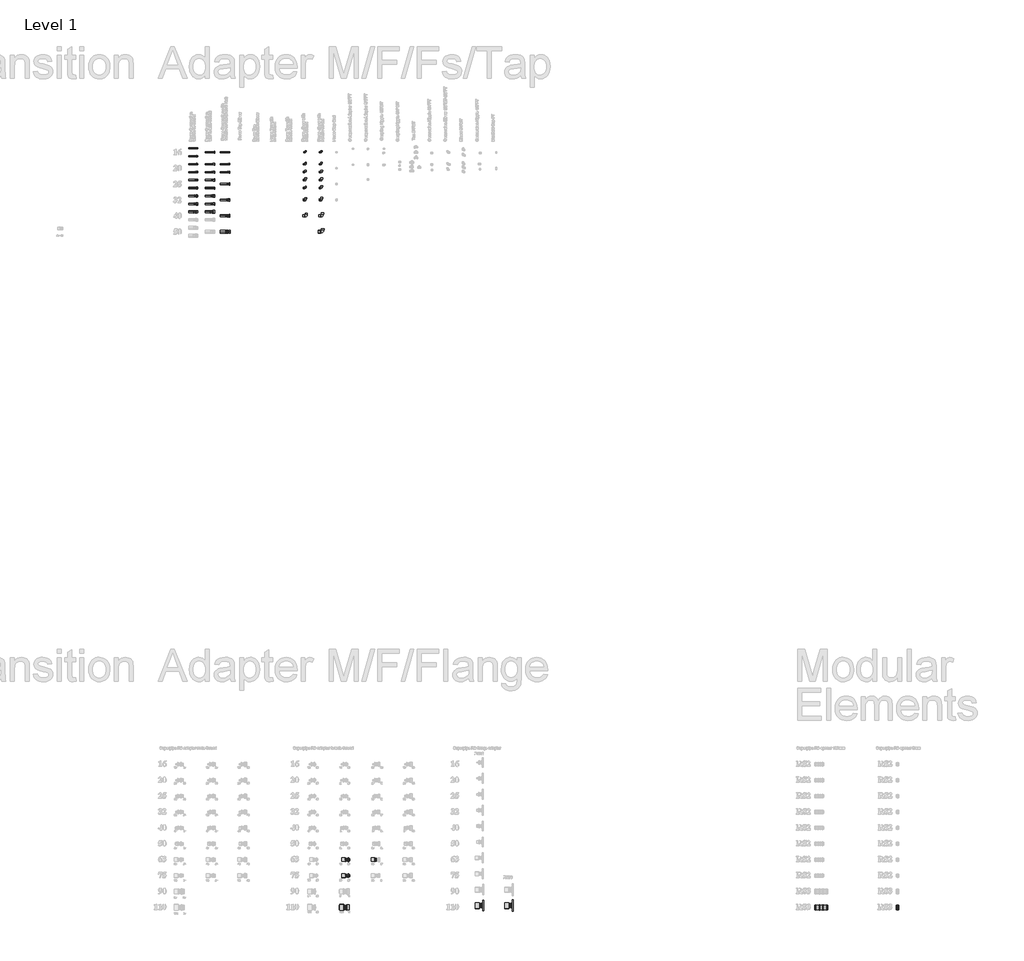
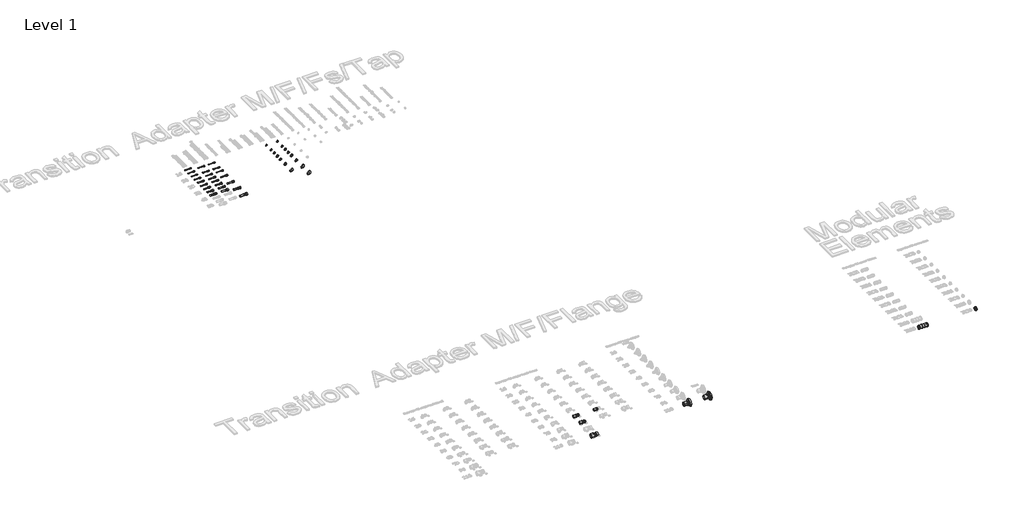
# One storey, part 5 of 57: 52 pipe fittings, 24 pipe segments.
"""IFC4 building model written with IfcOpenShell, lengths in millimetres."""

from ifc_helpers import new_model, si_unit, point, frame, frame_2d, origin, place, context, project, spatial, circle_curve, trimmed, segment, composite_curve, outline, extrude, transform, mapped, element, save
from components import pipe_fitting_3e6d713a, pipe_fitting_80dcb228, pipe_fitting_06f68891, pipe_fitting_153eb18a, pipe_fitting_16d1dc4d, pipe_fitting_d59b398c, pipe_fitting_65f6b2e2, pipe_fitting_98ce794a, pipe_fitting_318aa478, pipe_fitting_791ebc37, pipe_fitting_c7017445, pipe_fitting_6a74affa, pipe_fitting_b4bb1536, pipe_fitting_474bcbb5, pipe_fitting_40a9fcae, pipe_fitting_f31cd02a, pipe_fitting_fcc8820a, pipe_fitting_cb08376b, pipe_fitting_2f187997, pipe_fitting_d1e6d692, pipe_fitting_828af438, pipe_fitting_0338804f, pipe_fitting_b7c00fc1, pipe_fitting_d50d454a, pipe_fitting_430ad02c, pipe_fitting_c0130a99, pipe_fitting_bb159481, pipe_fitting_895879c1, pipe_fitting_925f8ba6, pipe_fitting_e706b996, pipe_fitting_e70ef469, pipe_fitting_1846f7b8, pipe_fitting_2b95b9ba, pipe_fitting_61145630, pipe_fitting_aa30d96a, pipe_fitting_9d20a31b, pipe_fitting_7aab8a70, pipe_fitting_b5cbe250, pipe_fitting_0f7801de, rs_adapter_8da40ca7, rs_adapter_b700a1d7, rs_adapter_1ad0a11d, rs_female_adapter_be3e60a6, rs_female_adapter_dce81887, rs_flange_a0c34e24, rs_flange_74e88712, rs_spacer_c2a2605f, rs_spacer_aa593b7b

model = new_model("IFC4")

# Units and contexts
model_context = context("Model", 3, world=origin())
ifc_project = project(units=[si_unit("LENGTHUNIT", "METRE", prefix="MILLI")], contexts=[model_context])

# Site, building, storey
site = spatial("IfcSite", under=ifc_project)
building = spatial("IfcBuilding", under=site)
storey = spatial("IfcBuildingStorey", under=building, Name="Level 1", Elevation=27.3876384)

# Pipe fittings
placement = place(None, origin())
pipe_fitting_shape = pipe_fitting_3e6d713a(model_context)
element("IfcPipeFitting", 1, ObjectType="SuperPipe_AdapterSN_MAX_G : 16-G1/2\"SN", at=placement, inside=storey, context=model_context, shape_type="MappedRepresentation", body=[
    mapped(pipe_fitting_shape, transform((30103.5742004, 30195.9751784, 27.3876384), x_axis=(1.0, 0.0, 0.0), y_axis=(0.0, 1.0, 0.0), z_axis=(0.0, 0.0, 1.0))),
])
pipe_fitting_2_shape = pipe_fitting_80dcb228(model_context)
element("IfcPipeFitting", 2, ObjectType="SuperPipe_AdapterMT : 16-R1/2\"MT", at=placement, inside=storey, context=model_context, shape_type="MappedRepresentation", body=[
    mapped(pipe_fitting_2_shape, transform((29507.8745881, 30270.9751784, 27.3876384), x_axis=(1.0, 0.0, 0.0), y_axis=(0.0, 1.0, 0.0), z_axis=(0.0, 0.0, 1.0))),
])
pipe_fitting_3_shape = pipe_fitting_06f68891(model_context)
element("IfcPipeFitting", 3, ObjectType="SuperPipe_ElbowAdapterMT_MAX_R : 16-R1/2\"MT", at=placement, inside=storey, context=model_context, shape_type="MappedRepresentation", body=[
    mapped(pipe_fitting_3_shape, transform((31558.8746831, 30195.708829, 27.3876384), x_axis=(1.0, 0.0, 0.0), y_axis=(0.0, 1.0, 0.0), z_axis=(0.0, 0.0, 1.0))),
])
pipe_fitting_4_shape = pipe_fitting_153eb18a(model_context)
element("IfcPipeFitting", 4, ObjectType="SuperPipe_AdapterMT : 16-R3/4\"MT", at=placement, inside=storey, context=model_context, shape_type="MappedRepresentation", body=[
    mapped(pipe_fitting_4_shape, transform((29506.8745881, 30120.9751784, 27.3876384), x_axis=(1.0, 0.0, 0.0), y_axis=(0.0, 1.0, 0.0), z_axis=(0.0, 0.0, 1.0))),
])
pipe_fitting_5_shape = pipe_fitting_16d1dc4d(model_context)
element("IfcPipeFitting", 5, ObjectType="SuperPipe_AdapterFT_MAX_RP : 16-RP1/2\"FT", at=placement, inside=storey, context=model_context, shape_type="MappedRepresentation", body=[
    mapped(pipe_fitting_5_shape, transform((29819.8746831, 30195.9751784, 27.3876384), x_axis=(1.0, 0.0, 0.0), y_axis=(0.0, 1.0, 0.0), z_axis=(0.0, 0.0, 1.0))),
])
pipe_fitting_6_shape = pipe_fitting_d59b398c(model_context)
element("IfcPipeFitting", 6, ObjectType="SuperPipe_ElbowAdapterFT_MAX_RP : 16-RP1/2\"FT", at=placement, inside=storey, context=model_context, shape_type="MappedRepresentation", body=[
    mapped(pipe_fitting_6_shape, transform((31859.8746831, 30195.708829, 27.3876384), x_axis=(1.0, 0.0, 0.0), y_axis=(0.0, 1.0, 0.0), z_axis=(0.0, 0.0, 1.0))),
])
pipe_fitting_7_shape = pipe_fitting_65f6b2e2(model_context)
element("IfcPipeFitting", 7, ObjectType="SuperPipe_AdapterSN_MAX_G : 20-G1/2\"SN", at=placement, inside=storey, context=model_context, shape_type="MappedRepresentation", body=[
    mapped(pipe_fitting_7_shape, transform((30107.5728103, 29970.9751784, 27.3876384), x_axis=(1.0, 0.0, 0.0), y_axis=(0.0, 1.0, 0.0), z_axis=(0.0, 0.0, 1.0))),
])
pipe_fitting_8_shape = pipe_fitting_98ce794a(model_context)
element("IfcPipeFitting", 8, ObjectType="SuperPipe_AdapterSN_MAX_G : 20-G3/4\"SN", at=placement, inside=storey, context=model_context, shape_type="MappedRepresentation", body=[
    mapped(pipe_fitting_8_shape, transform((30111.5727093, 29820.9751784, 27.3876384), x_axis=(1.0, 0.0, 0.0), y_axis=(0.0, 1.0, 0.0), z_axis=(0.0, 0.0, 1.0))),
])
pipe_fitting_9_shape = pipe_fitting_318aa478(model_context)
element("IfcPipeFitting", 9, ObjectType="SuperPipe_AdapterMT : 20-R1/2\"MT", at=placement, inside=storey, context=model_context, shape_type="MappedRepresentation", body=[
    mapped(pipe_fitting_9_shape, transform((29507.8751, 29970.9751784, 27.3876384), x_axis=(1.0, 0.0, 0.0), y_axis=(0.0, 1.0, 0.0), z_axis=(0.0, 0.0, 1.0))),
])
pipe_fitting_10_shape = pipe_fitting_791ebc37(model_context)
element("IfcPipeFitting", 10, ObjectType="SuperPipe_ElbowAdapterMT_MAX_R : 20-R1/2\"MT", at=placement, inside=storey, context=model_context, shape_type="MappedRepresentation", body=[
    mapped(pipe_fitting_10_shape, transform((31560.8746831, 29970.9751784, 27.3876384), x_axis=(1.0, 0.0, 0.0), y_axis=(0.0, 1.0, 0.0), z_axis=(0.0, 0.0, 1.0))),
])
pipe_fitting_11_shape = pipe_fitting_c7017445(model_context)
element("IfcPipeFitting", 11, ObjectType="SuperPipe_AdapterMT : 20-R3/4\"MT", at=placement, inside=storey, context=model_context, shape_type="MappedRepresentation", body=[
    mapped(pipe_fitting_11_shape, transform((29506.8751411, 29820.9751784, 27.3876384), x_axis=(1.0, 0.0, 0.0), y_axis=(0.0, 1.0, 0.0), z_axis=(0.0, 0.0, 1.0))),
])
pipe_fitting_12_shape = pipe_fitting_6a74affa(model_context)
element("IfcPipeFitting", 12, ObjectType="SuperPipe_ElbowAdapterMT_MAX_R : 20-R3/4\"MT", at=placement, inside=storey, context=model_context, shape_type="MappedRepresentation", body=[
    mapped(pipe_fitting_12_shape, transform((31560.8746831, 29820.9751784, 27.3876384), x_axis=(1.0, 0.0, 0.0), y_axis=(0.0, 1.0, 0.0), z_axis=(0.0, 0.0, 1.0))),
])
pipe_fitting_13_shape = pipe_fitting_b4bb1536(model_context)
element("IfcPipeFitting", 13, ObjectType="SuperPipe_AdapterFT_MAX_RP : 20-RP1/2\"FT", at=placement, inside=storey, context=model_context, shape_type="MappedRepresentation", body=[
    mapped(pipe_fitting_13_shape, transform((29819.8746831, 29970.9751784, 27.3876384), x_axis=(1.0, 0.0, 0.0), y_axis=(0.0, 1.0, 0.0), z_axis=(0.0, 0.0, 1.0))),
])
pipe_fitting_14_shape = pipe_fitting_474bcbb5(model_context)
element("IfcPipeFitting", 14, ObjectType="SuperPipe_ElbowAdapterFT_MAX_RP : 20-RP1/2\"FT", at=placement, inside=storey, context=model_context, shape_type="MappedRepresentation", body=[
    mapped(pipe_fitting_14_shape, transform((31860.8746831, 29970.9751784, 27.3876384), x_axis=(1.0, 0.0, 0.0), y_axis=(0.0, 1.0, 0.0), z_axis=(0.0, 0.0, 1.0))),
])
pipe_fitting_15_shape = pipe_fitting_40a9fcae(model_context)
element("IfcPipeFitting", 15, ObjectType="SuperPipe_AdapterFT_MAX_RP : 20-RP3/4\"FT", at=placement, inside=storey, context=model_context, shape_type="MappedRepresentation", body=[
    mapped(pipe_fitting_15_shape, transform((29816.8746831, 29820.9751784, 27.3876384), x_axis=(1.0, 0.0, 0.0), y_axis=(0.0, 1.0, 0.0), z_axis=(0.0, 0.0, 1.0))),
])
pipe_fitting_16_shape = pipe_fitting_f31cd02a(model_context)
element("IfcPipeFitting", 16, ObjectType="SuperPipe_ElbowAdapterFT_MAX_RP : 20-RP3/4\"FT", at=placement, inside=storey, context=model_context, shape_type="MappedRepresentation", body=[
    mapped(pipe_fitting_16_shape, transform((31862.8746831, 29820.9751784, 27.3876384), x_axis=(1.0, 0.0, 0.0), y_axis=(0.0, 1.0, 0.0), z_axis=(0.0, 0.0, 1.0))),
])
pipe_fitting_17_shape = pipe_fitting_fcc8820a(model_context)
element("IfcPipeFitting", 17, ObjectType="SuperPipe_AdapterSN_MAX_G : 25-G1\"SN", at=placement, inside=storey, context=model_context, shape_type="MappedRepresentation", body=[
    mapped(pipe_fitting_17_shape, transform((30106.5742004, 29595.9751784, 27.3876384), x_axis=(1.0, 0.0, 0.0), y_axis=(0.0, 1.0, 0.0), z_axis=(0.0, 0.0, 1.0))),
])
pipe_fitting_18_shape = pipe_fitting_cb08376b(model_context)
element("IfcPipeFitting", 18, ObjectType="SuperPipe_AdapterMT : 25-R1\"MT", at=placement, inside=storey, context=model_context, shape_type="MappedRepresentation", body=[
    mapped(pipe_fitting_18_shape, transform((29506.875132, 29520.9751784, 27.3876384), x_axis=(1.0, 0.0, 0.0), y_axis=(0.0, 1.0, 0.0), z_axis=(0.0, 0.0, 1.0))),
])
pipe_fitting_19_shape = pipe_fitting_2f187997(model_context)
element("IfcPipeFitting", 19, ObjectType="SuperPipe_ElbowAdapterMT_MAX_R : 25-R1\"MT", at=placement, inside=storey, context=model_context, shape_type="MappedRepresentation", body=[
    mapped(pipe_fitting_19_shape, transform((31563.8746831, 29670.9751784, 27.3876384), x_axis=(1.0, 0.0, 0.0), y_axis=(0.0, 1.0, 0.0), z_axis=(0.0, 0.0, 1.0))),
])
pipe_fitting_20_shape = pipe_fitting_d1e6d692(model_context)
element("IfcPipeFitting", 20, ObjectType="SuperPipe_AdapterMT : 25-R3/4\"MT", at=placement, inside=storey, context=model_context, shape_type="MappedRepresentation", body=[
    mapped(pipe_fitting_20_shape, transform((29506.8751516, 29670.9751784, 27.3876384), x_axis=(1.0, 0.0, 0.0), y_axis=(0.0, 1.0, 0.0), z_axis=(0.0, 0.0, 1.0))),
])
pipe_fitting_21_shape = pipe_fitting_828af438(model_context)
element("IfcPipeFitting", 21, ObjectType="SuperPipe_ElbowAdapterMT_MAX_R : 25-R3/4\"MT", at=placement, inside=storey, context=model_context, shape_type="MappedRepresentation", body=[
    mapped(pipe_fitting_21_shape, transform((31561.8746831, 29520.9751784, 27.3876384), x_axis=(1.0, 0.0, 0.0), y_axis=(0.0, 1.0, 0.0), z_axis=(0.0, 0.0, 1.0))),
])
pipe_fitting_22_shape = pipe_fitting_0338804f(model_context)
element("IfcPipeFitting", 22, ObjectType="SuperPipe_AdapterFT_MAX_RP : 25-RP1\"FT", at=placement, inside=storey, context=model_context, shape_type="MappedRepresentation", body=[
    mapped(pipe_fitting_22_shape, transform((29816.8746831, 29670.9751784, 27.3876384), x_axis=(1.0, 0.0, 0.0), y_axis=(0.0, 1.0, 0.0), z_axis=(0.0, 0.0, 1.0))),
])
pipe_fitting_23_shape = pipe_fitting_b7c00fc1(model_context)
element("IfcPipeFitting", 23, ObjectType="SuperPipe_ElbowAdapterFT_MAX_RP : 25-RP1\"FT", at=placement, inside=storey, context=model_context, shape_type="MappedRepresentation", body=[
    mapped(pipe_fitting_23_shape, transform((31866.8746831, 29520.9751784, 27.3876384), x_axis=(1.0, 0.0, 0.0), y_axis=(0.0, 1.0, 0.0), z_axis=(0.0, 0.0, 1.0))),
])
pipe_fitting_24_shape = pipe_fitting_d50d454a(model_context)
element("IfcPipeFitting", 24, ObjectType="SuperPipe_AdapterFT_MAX_RP : 25-RP3/4\"FT", at=placement, inside=storey, context=model_context, shape_type="MappedRepresentation", body=[
    mapped(pipe_fitting_24_shape, transform((29817.8746831, 29520.9751784, 27.3876384), x_axis=(1.0, 0.0, 0.0), y_axis=(0.0, 1.0, 0.0), z_axis=(0.0, 0.0, 1.0))),
])
pipe_fitting_25_shape = pipe_fitting_430ad02c(model_context)
element("IfcPipeFitting", 25, ObjectType="SuperPipe_ElbowAdapterFT_MAX_RP : 25-RP3/4\"FT", at=placement, inside=storey, context=model_context, shape_type="MappedRepresentation", body=[
    mapped(pipe_fitting_25_shape, transform((31862.8746831, 29670.9751784, 27.3876384), x_axis=(1.0, 0.0, 0.0), y_axis=(0.0, 1.0, 0.0), z_axis=(0.0, 0.0, 1.0))),
])
pipe_fitting_26_shape = pipe_fitting_c0130a99(model_context)
element("IfcPipeFitting", 26, ObjectType="SuperPipe_AdapterSN_MAX_G : 32-G1 1/4\"SN", at=placement, inside=storey, context=model_context, shape_type="MappedRepresentation", body=[
    mapped(pipe_fitting_26_shape, transform((30104.5742004, 29295.9751784, 27.3876384), x_axis=(1.0, 0.0, 0.0), y_axis=(0.0, 1.0, 0.0), z_axis=(0.0, 0.0, 1.0))),
])
pipe_fitting_27_shape = pipe_fitting_bb159481(model_context)
element("IfcPipeFitting", 27, ObjectType="SuperPipe_AdapterMT : 32-R1 1/4\"MT", at=placement, inside=storey, context=model_context, shape_type="MappedRepresentation", body=[
    mapped(pipe_fitting_27_shape, transform((29496.8751903, 29220.9751784, 27.3876384), x_axis=(1.0, 0.0, 0.0), y_axis=(0.0, 1.0, 0.0), z_axis=(0.0, 0.0, 1.0))),
])
pipe_fitting_28_shape = pipe_fitting_895879c1(model_context)
element("IfcPipeFitting", 28, ObjectType="SuperPipe_AdapterMT : 32-R1\"MT", at=placement, inside=storey, context=model_context, shape_type="MappedRepresentation", body=[
    mapped(pipe_fitting_28_shape, transform((29506.8751818, 29370.9751784, 27.3876384), x_axis=(1.0, 0.0, 0.0), y_axis=(0.0, 1.0, 0.0), z_axis=(0.0, 0.0, 1.0))),
])
pipe_fitting_29_shape = pipe_fitting_925f8ba6(model_context)
element("IfcPipeFitting", 29, ObjectType="SuperPipe_ElbowAdapterMT_MAX_R : 32-R1\"MT", at=placement, inside=storey, context=model_context, shape_type="MappedRepresentation", body=[
    mapped(pipe_fitting_29_shape, transform((31563.8746831, 29295.9751784, 27.3876384), x_axis=(1.0, 0.0, 0.0), y_axis=(0.0, 1.0, 0.0), z_axis=(0.0, 0.0, 1.0))),
])
pipe_fitting_30_shape = pipe_fitting_e706b996(model_context)
element("IfcPipeFitting", 30, ObjectType="SuperPipe_AdapterFT_MAX_RP : 32-RP1 1/4\"FT", at=placement, inside=storey, context=model_context, shape_type="MappedRepresentation", body=[
    mapped(pipe_fitting_30_shape, transform((29813.8746831, 29370.9751784, 27.3876384), x_axis=(1.0, 0.0, 0.0), y_axis=(0.0, 1.0, 0.0), z_axis=(0.0, 0.0, 1.0))),
])
pipe_fitting_31_shape = pipe_fitting_e70ef469(model_context)
element("IfcPipeFitting", 31, ObjectType="SuperPipe_AdapterFT_MAX_RP : 32-RP1\"FT", at=placement, inside=storey, context=model_context, shape_type="MappedRepresentation", body=[
    mapped(pipe_fitting_31_shape, transform((29817.8746831, 29220.9751784, 27.3876384), x_axis=(1.0, 0.0, 0.0), y_axis=(0.0, 1.0, 0.0), z_axis=(0.0, 0.0, 1.0))),
])
pipe_fitting_32_shape = pipe_fitting_1846f7b8(model_context)
element("IfcPipeFitting", 32, ObjectType="SuperPipe_ElbowAdapterFT_MAX_RP : 32-RP1\"FT", at=placement, inside=storey, context=model_context, shape_type="MappedRepresentation", body=[
    mapped(pipe_fitting_32_shape, transform((31866.8746831, 29295.9751784, 27.3876384), x_axis=(1.0, 0.0, 0.0), y_axis=(0.0, 1.0, 0.0), z_axis=(0.0, 0.0, 1.0))),
])
pipe_fitting_33_shape = pipe_fitting_2b95b9ba(model_context)
element("IfcPipeFitting", 33, ObjectType="SuperPipe_AdapterSN_MAX_G : 40-G1 1/2\"SN", at=placement, inside=storey, context=model_context, shape_type="MappedRepresentation", body=[
    mapped(pipe_fitting_33_shape, transform((30098.5742004, 28996.2415278, 27.3876384), x_axis=(1.0, 0.0, 0.0), y_axis=(0.0, 1.0, 0.0), z_axis=(0.0, 0.0, 1.0))),
])
pipe_fitting_34_shape = pipe_fitting_61145630(model_context)
element("IfcPipeFitting", 34, ObjectType="SuperPipe_AdapterMT : 40-R1 1/4\"MT", at=placement, inside=storey, context=model_context, shape_type="MappedRepresentation", body=[
    mapped(pipe_fitting_34_shape, transform((29495.8745881, 29070.9751784, 27.3876384), x_axis=(1.0, 0.0, 0.0), y_axis=(0.0, 1.0, 0.0), z_axis=(0.0, 0.0, 1.0))),
])
pipe_fitting_35_shape = pipe_fitting_aa30d96a(model_context)
element("IfcPipeFitting", 35, ObjectType="SuperPipe_ElbowAdapterMT_MAX_R : 40-R1 1/4\"MT", at=placement, inside=storey, context=model_context, shape_type="MappedRepresentation", body=[
    mapped(pipe_fitting_35_shape, transform((31573.8746831, 28996.2415278, 27.3876384), x_axis=(1.0, 0.0, 0.0), y_axis=(0.0, 1.0, 0.0), z_axis=(0.0, 0.0, 1.0))),
])
pipe_fitting_36_shape = pipe_fitting_9d20a31b(model_context)
element("IfcPipeFitting", 36, ObjectType="SuperPipe_AdapterFT_SPress_RP : 40-RP1 1/2\"FT", at=placement, inside=storey, context=model_context, shape_type="MappedRepresentation", body=[
    mapped(pipe_fitting_36_shape, transform((29811.8746831, 29070.9751784, 27.3876384), x_axis=(1.0, 0.0, 0.0), y_axis=(0.0, 1.0, 0.0), z_axis=(0.0, 0.0, 1.0))),
])
pipe_fitting_37_shape = pipe_fitting_7aab8a70(model_context)
element("IfcPipeFitting", 37, ObjectType="SuperPipe_ElbowAdapterFT_MAX_RP : 40-RP1 1/2\"FT", at=placement, inside=storey, context=model_context, shape_type="MappedRepresentation", body=[
    mapped(pipe_fitting_37_shape, transform((31878.8746831, 28996.2415278, 27.3876384), x_axis=(1.0, 0.0, 0.0), y_axis=(0.0, 1.0, 0.0), z_axis=(0.0, 0.0, 1.0))),
])
pipe_fitting_38_shape = pipe_fitting_b5cbe250(model_context)
element("IfcPipeFitting", 38, ObjectType="SuperPipe_AdapterSN_MAX_G : 50-G2\"SN", at=placement, inside=storey, context=model_context, shape_type="MappedRepresentation", body=[
    mapped(pipe_fitting_38_shape, transform((30098.5742004, 28695.9751784, 27.3876384), x_axis=(1.0, 0.0, 0.0), y_axis=(0.0, 1.0, 0.0), z_axis=(0.0, 0.0, 1.0))),
])
pipe_fitting_39_shape = pipe_fitting_0f7801de(model_context)
element("IfcPipeFitting", 39, ObjectType="SuperPipe_ElbowAdapterFT_MAX_RP : 50-RP1 1/2\"FT", at=placement, inside=storey, context=model_context, shape_type="MappedRepresentation", body=[
    mapped(pipe_fitting_39_shape, transform((31880.8746831, 28695.9751784, 27.3876384), x_axis=(1.0, 0.0, 0.0), y_axis=(0.0, 1.0, 0.0), z_axis=(0.0, 0.0, 1.0))),
])
rs_adapter_shape = rs_adapter_8da40ca7(model_context)
element("IfcPipeFitting", 40, ObjectType="RS Adapter : Superpipe RS Press Adapter", at=placement, inside=storey, context=model_context, shape_type="MappedRepresentation", body=[
    mapped(rs_adapter_shape, transform((32296.6568613, 15946.8081159, 27.3876384), x_axis=(-1.0000000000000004, 0.0, 0.0), y_axis=(0.0, 1.0000000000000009, 0.0), z_axis=(0.0, 0.0, -1.0000000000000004))),
])
element("IfcPipeFitting", 41, ObjectType="RS Adapter : Superpipe RS Press Adapter", at=placement, inside=storey, context=model_context, shape_type="MappedRepresentation", body=[
    mapped(rs_adapter_shape, transform((34858.1649783, 15981.0652943, 27.3876384), x_axis=(-1.0000000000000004, 0.0, 0.0), y_axis=(0.0, 1.0000000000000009, 0.0), z_axis=(0.0, 0.0, -1.0000000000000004))),
])
element("IfcPipeFitting", 42, ObjectType="RS Adapter : Superpipe RS Press Adapter", at=placement, inside=storey, context=model_context, shape_type="MappedRepresentation", body=[
    mapped(rs_adapter_shape, transform((35414.1300252, 15981.0652943, 27.3876384), x_axis=(-1.0000000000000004, 0.0, 0.0), y_axis=(0.0, 1.0000000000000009, 0.0), z_axis=(0.0, 0.0, -1.0000000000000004))),
])
rs_adapter_2_shape = rs_adapter_b700a1d7(model_context)
element("IfcPipeFitting", 43, ObjectType="RS Adapter : Superpipe RS Press Adapter", at=placement, inside=storey, context=model_context, shape_type="MappedRepresentation", body=[
    mapped(rs_adapter_2_shape, transform((32328.6568613, 16546.8081159, 27.3876384), x_axis=(-1.0000000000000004, 0.0, 0.0), y_axis=(0.0, 1.0000000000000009, 0.0), z_axis=(0.0, 0.0, -1.0000000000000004))),
])
rs_adapter_3_shape = rs_adapter_1ad0a11d(model_context)
element("IfcPipeFitting", 44, ObjectType="RS Adapter : Superpipe RS Press Adapter", at=placement, inside=storey, context=model_context, shape_type="MappedRepresentation", body=[
    mapped(rs_adapter_3_shape, transform((32328.6568613, 16846.8081159, 27.3876384), x_axis=(-1.0000000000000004, 0.0, 0.0), y_axis=(0.0, 1.0000000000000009, 0.0), z_axis=(0.0, 0.0, -1.0000000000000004))),
])
element("IfcPipeFitting", 45, ObjectType="RS Adapter : Superpipe RS Press Adapter", at=placement, inside=storey, context=model_context, shape_type="MappedRepresentation", body=[
    mapped(rs_adapter_3_shape, transform((32888.6568613, 16846.8081159, 27.3876384), x_axis=(-1.0000000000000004, 0.0, 0.0), y_axis=(0.0, 1.0000000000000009, 0.0), z_axis=(0.0, 0.0, -1.0000000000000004))),
])
rs_female_adapter_shape = rs_female_adapter_be3e60a6(model_context)
element("IfcPipeFitting", 46, ObjectType="RS Female Adapter : Superpipe RS2 FT Adapter 1”", at=placement, inside=storey, context=model_context, shape_type="MappedRepresentation", body=[
    mapped(rs_female_adapter_shape, transform((32346.6568613, 16846.8081159, 27.3876384), x_axis=(1.0, 0.0, 0.0), y_axis=(0.0, -1.0, 0.0), z_axis=(0.0, 0.0, -1.0))),
])
element("IfcPipeFitting", 47, ObjectType="RS Female Adapter : Superpipe RS2 FT Adapter 1”", at=placement, inside=storey, context=model_context, shape_type="MappedRepresentation", body=[
    mapped(rs_female_adapter_shape, transform((32346.6568613, 16546.8081159, 27.3876384), x_axis=(1.0, 0.0, 0.0), y_axis=(0.0, -1.0, 0.0), z_axis=(0.0, 0.0, -1.0))),
])
rs_female_adapter_2_shape = rs_female_adapter_dce81887(model_context)
element("IfcPipeFitting", 48, ObjectType="RS Female Adapter : Superpipe RS3 FT Adapter 3”", at=placement, inside=storey, context=model_context, shape_type="MappedRepresentation", body=[
    mapped(rs_female_adapter_2_shape, transform((32314.6568613, 15946.8081159, 27.3876384), x_axis=(1.0, 0.0, 0.0), y_axis=(0.0, -1.0, 0.0), z_axis=(0.0, 0.0, -1.0))),
])
rs_flange_shape = rs_flange_a0c34e24(model_context)
element("IfcPipeFitting", 49, ObjectType="RS Flange : Superpipe Flange Adapter - RS3 DN80 (PN16)", at=placement, inside=storey, context=model_context, shape_type="MappedRepresentation", body=[
    mapped(rs_flange_shape, transform((34875.1649783, 15981.0652943, 27.3876384), x_axis=(1.0, 0.0, 0.0), y_axis=(0.0, -1.0, 0.0), z_axis=(0.0, 0.0, -1.0))),
])
rs_flange_2_shape = rs_flange_74e88712(model_context)
element("IfcPipeFitting", 50, ObjectType="RS Flange : Superpipe Flange Adapter - RS3 DN100 (PN16)", at=placement, inside=storey, context=model_context, shape_type="MappedRepresentation", body=[
    mapped(rs_flange_2_shape, transform((35431.1300252, 15981.0652943, 27.3876384), x_axis=(1.0, 0.0, 0.0), y_axis=(0.0, -1.0, 0.0), z_axis=(0.0, 0.0, -1.0))),
])
rs_spacer_shape = rs_spacer_c2a2605f(model_context)
element("IfcPipeFitting", 51, ObjectType="RS Spacer : Superpipe RS Spacer - RS3 210mm", at=placement, inside=storey, context=model_context, shape_type="MappedRepresentation", body=[
    mapped(rs_spacer_shape, transform((41164.4874053, 15946.8081159, 27.3876384), x_axis=(1.0, 0.0, 0.0), y_axis=(0.0, 1.0, 0.0), z_axis=(0.0, 0.0, 1.0))),
])
rs_spacer_2_shape = rs_spacer_aa593b7b(model_context)
element("IfcPipeFitting", 52, ObjectType="RS Spacer : Superpipe RS Spacer - RS3 5mm", at=placement, inside=storey, context=model_context, shape_type="MappedRepresentation", body=[
    mapped(rs_spacer_2_shape, transform((42708.7936784, 15946.8081159, 27.3876384), x_axis=(1.0, 0.0, 0.0), y_axis=(0.0, -1.0, 0.0), z_axis=(0.0, 0.0, -1.0))),
])

# Pipe segments
element("IfcPipeSegment", 53, ObjectType="Superpipe 2+ coil", at=placement, inside=storey, context=model_context, shape_type="SweptSolid", body=[
    extrude(outline(composite_curve([segment(trimmed(circle_curve(frame_2d((30270.9751784, 27.3876384)), 8.0), [point((30278.9751784, 27.3876384))], [point((30270.9751784, 19.3876384))], False, "CARTESIAN"), True, "CONTINUOUS"), segment(trimmed(circle_curve(frame_2d((30270.9751784, 27.3876384)), 8.0), [point((30270.9751784, 19.3876384))], [point((30262.9751784, 27.3876384))], False, "CARTESIAN"), True, "CONTINUOUS"), segment(trimmed(circle_curve(frame_2d((30270.9751784, 27.3876384)), 8.0), [point((30262.9751784, 27.3876384))], [point((30270.9751784, 35.3876384))], False, "CARTESIAN"), True, "CONTINUOUS"), segment(trimmed(circle_curve(frame_2d((30270.9751784, 27.3876384)), 8.0), [point((30270.9751784, 35.3876384))], [point((30278.9751784, 27.3876384))], False, "CARTESIAN"), True, "CONTINUOUS")], self_intersect=False)), frame((29351.8751, 0.0, 0.0), z_axis=(1.0, 0.0, 0.0), x_axis=(0.0, 1.0, 0.0)), (0.0, 0.0, 1.0), 149.9994882),
])
element("IfcPipeSegment", 54, ObjectType="Superpipe 2+ coil", at=placement, inside=storey, context=model_context, shape_type="SweptSolid", body=[
    extrude(outline(composite_curve([segment(trimmed(circle_curve(frame_2d((30120.9751784, 27.3876384)), 8.0), [point((30128.9751784, 27.3876384))], [point((30120.9751784, 19.3876384))], False, "CARTESIAN"), True, "CONTINUOUS"), segment(trimmed(circle_curve(frame_2d((30120.9751784, 27.3876384)), 8.0), [point((30120.9751784, 19.3876384))], [point((30112.9751784, 27.3876384))], False, "CARTESIAN"), True, "CONTINUOUS"), segment(trimmed(circle_curve(frame_2d((30120.9751784, 27.3876384)), 8.0), [point((30112.9751784, 27.3876384))], [point((30120.9751784, 35.3876384))], False, "CARTESIAN"), True, "CONTINUOUS"), segment(trimmed(circle_curve(frame_2d((30120.9751784, 27.3876384)), 8.0), [point((30120.9751784, 35.3876384))], [point((30128.9751784, 27.3876384))], False, "CARTESIAN"), True, "CONTINUOUS")], self_intersect=False)), frame((29351.8751, 0.0, 0.0), z_axis=(1.0, 0.0, 0.0), x_axis=(0.0, 1.0, 0.0)), (0.0, 0.0, 1.0), 147.9994882),
])
element("IfcPipeSegment", 55, ObjectType="Superpipe 2+ coil", at=placement, inside=storey, context=model_context, shape_type="SweptSolid", body=[
    extrude(outline(composite_curve([segment(trimmed(circle_curve(frame_2d((29970.9751784, 27.3876384)), 10.0), [point((29980.9751784, 27.3876384))], [point((29970.9751784, 17.3876384))], False, "CARTESIAN"), True, "CONTINUOUS"), segment(trimmed(circle_curve(frame_2d((29970.9751784, 27.3876384)), 10.0), [point((29970.9751784, 17.3876384))], [point((29960.9751784, 27.3876384))], False, "CARTESIAN"), True, "CONTINUOUS"), segment(trimmed(circle_curve(frame_2d((29970.9751784, 27.3876384)), 10.0), [point((29960.9751784, 27.3876384))], [point((29970.9751784, 37.3876384))], False, "CARTESIAN"), True, "CONTINUOUS"), segment(trimmed(circle_curve(frame_2d((29970.9751784, 27.3876384)), 10.0), [point((29970.9751784, 37.3876384))], [point((29980.9751784, 27.3876384))], False, "CARTESIAN"), True, "CONTINUOUS")], self_intersect=False)), frame((29351.8751, 0.0, 0.0), z_axis=(1.0, 0.0, 0.0), x_axis=(0.0, 1.0, 0.0)), (0.0, 0.0, 1.0), 151.0),
])
element("IfcPipeSegment", 56, ObjectType="Superpipe 2+ coil", at=placement, inside=storey, context=model_context, shape_type="SweptSolid", body=[
    extrude(outline(composite_curve([segment(trimmed(circle_curve(frame_2d((29820.9751784, 27.3876384)), 10.0), [point((29830.9751784, 27.3876384))], [point((29820.9751784, 17.3876384))], False, "CARTESIAN"), True, "CONTINUOUS"), segment(trimmed(circle_curve(frame_2d((29820.9751784, 27.3876384)), 10.0), [point((29820.9751784, 17.3876384))], [point((29810.9751784, 27.3876384))], False, "CARTESIAN"), True, "CONTINUOUS"), segment(trimmed(circle_curve(frame_2d((29820.9751784, 27.3876384)), 10.0), [point((29810.9751784, 27.3876384))], [point((29820.9751784, 37.3876384))], False, "CARTESIAN"), True, "CONTINUOUS"), segment(trimmed(circle_curve(frame_2d((29820.9751784, 27.3876384)), 10.0), [point((29820.9751784, 37.3876384))], [point((29830.9751784, 27.3876384))], False, "CARTESIAN"), True, "CONTINUOUS")], self_intersect=False)), frame((29351.8751, 0.0, 0.0), z_axis=(1.0, 0.0, 0.0), x_axis=(0.0, 1.0, 0.0)), (0.0, 0.0, 1.0), 148.0000411),
])
element("IfcPipeSegment", 57, ObjectType="Superpipe 2+ coil", at=placement, inside=storey, context=model_context, shape_type="SweptSolid", body=[
    extrude(outline(composite_curve([segment(trimmed(circle_curve(frame_2d((29520.9751784, 27.3876384)), 12.5), [point((29533.4751784, 27.3876384))], [point((29520.9751784, 14.8876384))], False, "CARTESIAN"), True, "CONTINUOUS"), segment(trimmed(circle_curve(frame_2d((29520.9751784, 27.3876384)), 12.5), [point((29520.9751784, 14.8876384))], [point((29508.4751784, 27.3876384))], False, "CARTESIAN"), True, "CONTINUOUS"), segment(trimmed(circle_curve(frame_2d((29520.9751784, 27.3876384)), 12.5), [point((29508.4751784, 27.3876384))], [point((29520.9751784, 39.8876384))], False, "CARTESIAN"), True, "CONTINUOUS"), segment(trimmed(circle_curve(frame_2d((29520.9751784, 27.3876384)), 12.5), [point((29520.9751784, 39.8876384))], [point((29533.4751784, 27.3876384))], False, "CARTESIAN"), True, "CONTINUOUS")], self_intersect=False)), frame((29351.8751, 0.0, 0.0), z_axis=(1.0, 0.0, 0.0), x_axis=(0.0, 1.0, 0.0)), (0.0, 0.0, 1.0), 148.000032),
])
element("IfcPipeSegment", 58, ObjectType="Superpipe 2+ coil", at=placement, inside=storey, context=model_context, shape_type="SweptSolid", body=[
    extrude(outline(composite_curve([segment(trimmed(circle_curve(frame_2d((29670.9751784, 27.3876384)), 12.5), [point((29683.4751784, 27.3876384))], [point((29670.9751784, 14.8876384))], False, "CARTESIAN"), True, "CONTINUOUS"), segment(trimmed(circle_curve(frame_2d((29670.9751784, 27.3876384)), 12.5), [point((29670.9751784, 14.8876384))], [point((29658.4751784, 27.3876384))], False, "CARTESIAN"), True, "CONTINUOUS"), segment(trimmed(circle_curve(frame_2d((29670.9751784, 27.3876384)), 12.5), [point((29658.4751784, 27.3876384))], [point((29670.9751784, 39.8876384))], False, "CARTESIAN"), True, "CONTINUOUS"), segment(trimmed(circle_curve(frame_2d((29670.9751784, 27.3876384)), 12.5), [point((29670.9751784, 39.8876384))], [point((29683.4751784, 27.3876384))], False, "CARTESIAN"), True, "CONTINUOUS")], self_intersect=False)), frame((29351.8751, 0.0, 0.0), z_axis=(1.0, 0.0, 0.0), x_axis=(0.0, 1.0, 0.0)), (0.0, 0.0, 1.0), 148.0000516),
])
element("IfcPipeSegment", 59, ObjectType="Superpipe 2+ coil", at=placement, inside=storey, context=model_context, shape_type="SweptSolid", body=[
    extrude(outline(composite_curve([segment(trimmed(circle_curve(frame_2d((29370.9751784, 27.3876384)), 16.0), [point((29386.9751784, 27.3876384))], [point((29370.9751784, 11.3876384))], False, "CARTESIAN"), True, "CONTINUOUS"), segment(trimmed(circle_curve(frame_2d((29370.9751784, 27.3876384)), 16.0), [point((29370.9751784, 11.3876384))], [point((29354.9751784, 27.3876384))], False, "CARTESIAN"), True, "CONTINUOUS"), segment(trimmed(circle_curve(frame_2d((29370.9751784, 27.3876384)), 16.0), [point((29354.9751784, 27.3876384))], [point((29370.9751784, 43.3876384))], False, "CARTESIAN"), True, "CONTINUOUS"), segment(trimmed(circle_curve(frame_2d((29370.9751784, 27.3876384)), 16.0), [point((29370.9751784, 43.3876384))], [point((29386.9751784, 27.3876384))], False, "CARTESIAN"), True, "CONTINUOUS")], self_intersect=False)), frame((29351.8751, 0.0, 0.0), z_axis=(1.0, 0.0, 0.0), x_axis=(0.0, 1.0, 0.0)), (0.0, 0.0, 1.0), 148.0000818),
])
element("IfcPipeSegment", 60, ObjectType="Superpipe 2+ coil", at=placement, inside=storey, context=model_context, shape_type="SweptSolid", body=[
    extrude(outline(composite_curve([segment(trimmed(circle_curve(frame_2d((29220.9751784, 27.3876384)), 16.0), [point((29236.9751784, 27.3876384))], [point((29220.9751784, 11.3876384))], False, "CARTESIAN"), True, "CONTINUOUS"), segment(trimmed(circle_curve(frame_2d((29220.9751784, 27.3876384)), 16.0), [point((29220.9751784, 11.3876384))], [point((29204.9751784, 27.3876384))], False, "CARTESIAN"), True, "CONTINUOUS"), segment(trimmed(circle_curve(frame_2d((29220.9751784, 27.3876384)), 16.0), [point((29204.9751784, 27.3876384))], [point((29220.9751784, 43.3876384))], False, "CARTESIAN"), True, "CONTINUOUS"), segment(trimmed(circle_curve(frame_2d((29220.9751784, 27.3876384)), 16.0), [point((29220.9751784, 43.3876384))], [point((29236.9751784, 27.3876384))], False, "CARTESIAN"), True, "CONTINUOUS")], self_intersect=False)), frame((29351.8751, 0.0, 0.0), z_axis=(1.0, 0.0, 0.0), x_axis=(0.0, 1.0, 0.0)), (0.0, 0.0, 1.0), 137.0000903),
])
element("IfcPipeSegment", 61, ObjectType="Superpipe - straight x5m", at=placement, inside=storey, context=model_context, shape_type="SweptSolid", body=[
    extrude(outline(composite_curve([segment(trimmed(circle_curve(frame_2d((29070.9751784, 27.3876384)), 20.0), [point((29090.9751784, 27.3876384))], [point((29070.9751784, 7.3876384))], False, "CARTESIAN"), True, "CONTINUOUS"), segment(trimmed(circle_curve(frame_2d((29070.9751784, 27.3876384)), 20.0), [point((29070.9751784, 7.3876384))], [point((29050.9751784, 27.3876384))], False, "CARTESIAN"), True, "CONTINUOUS"), segment(trimmed(circle_curve(frame_2d((29070.9751784, 27.3876384)), 20.0), [point((29050.9751784, 27.3876384))], [point((29070.9751784, 47.3876384))], False, "CARTESIAN"), True, "CONTINUOUS"), segment(trimmed(circle_curve(frame_2d((29070.9751784, 27.3876384)), 20.0), [point((29070.9751784, 47.3876384))], [point((29090.9751784, 27.3876384))], False, "CARTESIAN"), True, "CONTINUOUS")], self_intersect=False)), frame((29351.8751, 0.0, 0.0), z_axis=(1.0, 0.0, 0.0), x_axis=(0.0, 1.0, 0.0)), (0.0, 0.0, 1.0), 135.9994882),
])
element("IfcPipeSegment", 62, ObjectType="Superpipe 2+ coil", at=placement, inside=storey, context=model_context, shape_type="SweptSolid", body=[
    extrude(outline(composite_curve([segment(trimmed(circle_curve(frame_2d((29970.9751784, 27.3876384)), 10.0), [point((29980.9751784, 27.3876384))], [point((29970.9751784, 17.3876384))], False, "CARTESIAN"), True, "CONTINUOUS"), segment(trimmed(circle_curve(frame_2d((29970.9751784, 27.3876384)), 10.0), [point((29970.9751784, 17.3876384))], [point((29960.9751784, 27.3876384))], False, "CARTESIAN"), True, "CONTINUOUS"), segment(trimmed(circle_curve(frame_2d((29970.9751784, 27.3876384)), 10.0), [point((29960.9751784, 27.3876384))], [point((29970.9751784, 37.3876384))], False, "CARTESIAN"), True, "CONTINUOUS"), segment(trimmed(circle_curve(frame_2d((29970.9751784, 27.3876384)), 10.0), [point((29970.9751784, 37.3876384))], [point((29980.9751784, 27.3876384))], False, "CARTESIAN"), True, "CONTINUOUS")], self_intersect=False)), frame((29664.2616819, 0.0, 0.0), z_axis=(1.0, 0.0, 0.0), x_axis=(0.0, 1.0, 0.0)), (0.0, 0.0, 1.0), 151.6130013),
])
element("IfcPipeSegment", 63, ObjectType="Superpipe 2+ coil", at=placement, inside=storey, context=model_context, shape_type="SweptSolid", body=[
    extrude(outline(composite_curve([segment(trimmed(circle_curve(frame_2d((29820.9751784, 27.3876384)), 10.0), [point((29830.9751784, 27.3876384))], [point((29820.9751784, 17.3876384))], False, "CARTESIAN"), True, "CONTINUOUS"), segment(trimmed(circle_curve(frame_2d((29820.9751784, 27.3876384)), 10.0), [point((29820.9751784, 17.3876384))], [point((29810.9751784, 27.3876384))], False, "CARTESIAN"), True, "CONTINUOUS"), segment(trimmed(circle_curve(frame_2d((29820.9751784, 27.3876384)), 10.0), [point((29810.9751784, 27.3876384))], [point((29820.9751784, 37.3876384))], False, "CARTESIAN"), True, "CONTINUOUS"), segment(trimmed(circle_curve(frame_2d((29820.9751784, 27.3876384)), 10.0), [point((29820.9751784, 37.3876384))], [point((29830.9751784, 27.3876384))], False, "CARTESIAN"), True, "CONTINUOUS")], self_intersect=False)), frame((29664.531681, 0.0, 0.0), z_axis=(1.0, 0.0, 0.0), x_axis=(0.0, 1.0, 0.0)), (0.0, 0.0, 1.0), 147.3430021),
])
element("IfcPipeSegment", 64, ObjectType="Superpipe 2+ coil", at=placement, inside=storey, context=model_context, shape_type="SweptSolid", body=[
    extrude(outline(composite_curve([segment(trimmed(circle_curve(frame_2d((30195.9751784, 27.3876384)), 8.0), [point((30203.9751784, 27.3876384))], [point((30195.9751784, 19.3876384))], False, "CARTESIAN"), True, "CONTINUOUS"), segment(trimmed(circle_curve(frame_2d((30195.9751784, 27.3876384)), 8.0), [point((30195.9751784, 19.3876384))], [point((30187.9751784, 27.3876384))], False, "CARTESIAN"), True, "CONTINUOUS"), segment(trimmed(circle_curve(frame_2d((30195.9751784, 27.3876384)), 8.0), [point((30187.9751784, 27.3876384))], [point((30195.9751784, 35.3876384))], False, "CARTESIAN"), True, "CONTINUOUS"), segment(trimmed(circle_curve(frame_2d((30195.9751784, 27.3876384)), 8.0), [point((30195.9751784, 35.3876384))], [point((30203.9751784, 27.3876384))], False, "CARTESIAN"), True, "CONTINUOUS")], self_intersect=False)), frame((29663.8746831, 0.0, 0.0), z_axis=(1.0, 0.0, 0.0), x_axis=(0.0, 1.0, 0.0)), (0.0, 0.0, 1.0), 150.0),
])
element("IfcPipeSegment", 65, ObjectType="Superpipe 2+ coil", at=placement, inside=storey, context=model_context, shape_type="SweptSolid", body=[
    extrude(outline(composite_curve([segment(trimmed(circle_curve(frame_2d((29670.9751784, 27.3876384)), 12.5), [point((29683.4751784, 27.3876384))], [point((29670.9751784, 14.8876384))], False, "CARTESIAN"), True, "CONTINUOUS"), segment(trimmed(circle_curve(frame_2d((29670.9751784, 27.3876384)), 12.5), [point((29670.9751784, 14.8876384))], [point((29658.4751784, 27.3876384))], False, "CARTESIAN"), True, "CONTINUOUS"), segment(trimmed(circle_curve(frame_2d((29670.9751784, 27.3876384)), 12.5), [point((29658.4751784, 27.3876384))], [point((29670.9751784, 39.8876384))], False, "CARTESIAN"), True, "CONTINUOUS"), segment(trimmed(circle_curve(frame_2d((29670.9751784, 27.3876384)), 12.5), [point((29670.9751784, 39.8876384))], [point((29683.4751784, 27.3876384))], False, "CARTESIAN"), True, "CONTINUOUS")], self_intersect=False)), frame((29664.7971801, 0.0, 0.0), z_axis=(1.0, 0.0, 0.0), x_axis=(0.0, 1.0, 0.0)), (0.0, 0.0, 1.0), 146.077503),
])
element("IfcPipeSegment", 66, ObjectType="Superpipe 2+ coil", at=placement, inside=storey, context=model_context, shape_type="SweptSolid", body=[
    extrude(outline(composite_curve([segment(trimmed(circle_curve(frame_2d((29370.9751784, 27.3876384)), 16.0), [point((29386.9751784, 27.3876384))], [point((29370.9751784, 11.3876384))], False, "CARTESIAN"), True, "CONTINUOUS"), segment(trimmed(circle_curve(frame_2d((29370.9751784, 27.3876384)), 16.0), [point((29370.9751784, 11.3876384))], [point((29354.9751784, 27.3876384))], False, "CARTESIAN"), True, "CONTINUOUS"), segment(trimmed(circle_curve(frame_2d((29370.9751784, 27.3876384)), 16.0), [point((29354.9751784, 27.3876384))], [point((29370.9751784, 43.3876384))], False, "CARTESIAN"), True, "CONTINUOUS"), segment(trimmed(circle_curve(frame_2d((29370.9751784, 27.3876384)), 16.0), [point((29370.9751784, 43.3876384))], [point((29386.9751784, 27.3876384))], False, "CARTESIAN"), True, "CONTINUOUS")], self_intersect=False)), frame((29665.3308784, 0.0, 0.0), z_axis=(1.0, 0.0, 0.0), x_axis=(0.0, 1.0, 0.0)), (0.0, 0.0, 1.0), 142.5438047),
])
element("IfcPipeSegment", 67, ObjectType="Superpipe 2+ coil", at=placement, inside=storey, context=model_context, shape_type="SweptSolid", body=[
    extrude(outline(composite_curve([segment(trimmed(circle_curve(frame_2d((29220.9751784, 27.3876384)), 16.0), [point((29236.9751784, 27.3876384))], [point((29220.9751784, 11.3876384))], False, "CARTESIAN"), True, "CONTINUOUS"), segment(trimmed(circle_curve(frame_2d((29220.9751784, 27.3876384)), 16.0), [point((29220.9751784, 11.3876384))], [point((29204.9751784, 27.3876384))], False, "CARTESIAN"), True, "CONTINUOUS"), segment(trimmed(circle_curve(frame_2d((29220.9751784, 27.3876384)), 16.0), [point((29204.9751784, 27.3876384))], [point((29220.9751784, 43.3876384))], False, "CARTESIAN"), True, "CONTINUOUS"), segment(trimmed(circle_curve(frame_2d((29220.9751784, 27.3876384)), 16.0), [point((29220.9751784, 43.3876384))], [point((29236.9751784, 27.3876384))], False, "CARTESIAN"), True, "CONTINUOUS")], self_intersect=False)), frame((29665.6008775, 0.0, 0.0), z_axis=(1.0, 0.0, 0.0), x_axis=(0.0, 1.0, 0.0)), (0.0, 0.0, 1.0), 146.2738056),
])
element("IfcPipeSegment", 68, ObjectType="Superpipe - straight x5m", at=placement, inside=storey, context=model_context, shape_type="SweptSolid", body=[
    extrude(outline(composite_curve([segment(trimmed(circle_curve(frame_2d((29070.9751784, 27.3876384)), 20.0), [point((29090.9751784, 27.3876384))], [point((29070.9751784, 7.3876384))], False, "CARTESIAN"), True, "CONTINUOUS"), segment(trimmed(circle_curve(frame_2d((29070.9751784, 27.3876384)), 20.0), [point((29070.9751784, 7.3876384))], [point((29050.9751784, 27.3876384))], False, "CARTESIAN"), True, "CONTINUOUS"), segment(trimmed(circle_curve(frame_2d((29070.9751784, 27.3876384)), 20.0), [point((29050.9751784, 27.3876384))], [point((29070.9751784, 47.3876384))], False, "CARTESIAN"), True, "CONTINUOUS"), segment(trimmed(circle_curve(frame_2d((29070.9751784, 27.3876384)), 20.0), [point((29070.9751784, 47.3876384))], [point((29090.9751784, 27.3876384))], False, "CARTESIAN"), True, "CONTINUOUS")], self_intersect=False)), frame((29663.8746831, 0.0, 0.0), z_axis=(1.0, 0.0, 0.0), x_axis=(0.0, 1.0, 0.0)), (0.0, 0.0, 1.0), 140.0),
])
element("IfcPipeSegment", 69, ObjectType="Superpipe 2+ coil", at=placement, inside=storey, context=model_context, shape_type="SweptSolid", body=[
    extrude(outline(composite_curve([segment(trimmed(circle_curve(frame_2d((29295.9751784, 27.3876384)), 16.0), [point((29311.9751784, 27.3876384))], [point((29295.9751784, 11.3876384))], False, "CARTESIAN"), True, "CONTINUOUS"), segment(trimmed(circle_curve(frame_2d((29295.9751784, 27.3876384)), 16.0), [point((29295.9751784, 11.3876384))], [point((29279.9751784, 27.3876384))], False, "CARTESIAN"), True, "CONTINUOUS"), segment(trimmed(circle_curve(frame_2d((29295.9751784, 27.3876384)), 16.0), [point((29279.9751784, 27.3876384))], [point((29295.9751784, 43.3876384))], False, "CARTESIAN"), True, "CONTINUOUS"), segment(trimmed(circle_curve(frame_2d((29295.9751784, 27.3876384)), 16.0), [point((29295.9751784, 43.3876384))], [point((29311.9751784, 27.3876384))], False, "CARTESIAN"), True, "CONTINUOUS")], self_intersect=False)), frame((29949.5728103, 0.0, 0.0), z_axis=(1.0, 0.0, 0.0), x_axis=(0.0, 1.0, 0.0)), (0.0, 0.0, 1.0), 151.0013901),
])
element("IfcPipeSegment", 70, ObjectType="Superpipe - straight x5m", at=placement, inside=storey, context=model_context, shape_type="SweptSolid", body=[
    extrude(outline(composite_curve([segment(trimmed(circle_curve(frame_2d((28996.2415278, 27.3876384)), 20.0), [point((29016.2415278, 27.3876384))], [point((28996.2415278, 7.3876384))], False, "CARTESIAN"), True, "CONTINUOUS"), segment(trimmed(circle_curve(frame_2d((28996.2415278, 27.3876384)), 20.0), [point((28996.2415278, 7.3876384))], [point((28976.2415278, 27.3876384))], False, "CARTESIAN"), True, "CONTINUOUS"), segment(trimmed(circle_curve(frame_2d((28996.2415278, 27.3876384)), 20.0), [point((28976.2415278, 27.3876384))], [point((28996.2415278, 47.3876384))], False, "CARTESIAN"), True, "CONTINUOUS"), segment(trimmed(circle_curve(frame_2d((28996.2415278, 27.3876384)), 20.0), [point((28996.2415278, 47.3876384))], [point((29016.2415278, 27.3876384))], False, "CARTESIAN"), True, "CONTINUOUS")], self_intersect=False)), frame((29949.5728103, 0.0, 0.0), z_axis=(1.0, 0.0, 0.0), x_axis=(0.0, 1.0, 0.0)), (0.0, 0.0, 1.0), 146.0013901),
])
element("IfcPipeSegment", 71, ObjectType="Superpipe - straight x5m", at=placement, inside=storey, context=model_context, shape_type="SweptSolid", body=[
    extrude(outline(composite_curve([segment(trimmed(circle_curve(frame_2d((28695.9751784, 27.3876384)), 25.0), [point((28720.9751784, 27.3876384))], [point((28695.9751784, 2.3876384))], False, "CARTESIAN"), True, "CONTINUOUS"), segment(trimmed(circle_curve(frame_2d((28695.9751784, 27.3876384)), 25.0), [point((28695.9751784, 2.3876384))], [point((28670.9751784, 27.3876384))], False, "CARTESIAN"), True, "CONTINUOUS"), segment(trimmed(circle_curve(frame_2d((28695.9751784, 27.3876384)), 25.0), [point((28670.9751784, 27.3876384))], [point((28695.9751784, 52.3876384))], False, "CARTESIAN"), True, "CONTINUOUS"), segment(trimmed(circle_curve(frame_2d((28695.9751784, 27.3876384)), 25.0), [point((28695.9751784, 52.3876384))], [point((28720.9751784, 27.3876384))], False, "CARTESIAN"), True, "CONTINUOUS")], self_intersect=False)), frame((29949.5728103, 0.0, 0.0), z_axis=(1.0, 0.0, 0.0), x_axis=(0.0, 1.0, 0.0)), (0.0, 0.0, 1.0), 146.0013901),
])
element("IfcPipeSegment", 72, ObjectType="Superpipe 2+ coil", at=placement, inside=storey, context=model_context, shape_type="SweptSolid", body=[
    extrude(outline(composite_curve([segment(trimmed(circle_curve(frame_2d((29970.9751784, 27.3876384)), 10.0), [point((29980.9751784, 27.3876384))], [point((29970.9751784, 17.3876384))], False, "CARTESIAN"), True, "CONTINUOUS"), segment(trimmed(circle_curve(frame_2d((29970.9751784, 27.3876384)), 10.0), [point((29970.9751784, 17.3876384))], [point((29960.9751784, 27.3876384))], False, "CARTESIAN"), True, "CONTINUOUS"), segment(trimmed(circle_curve(frame_2d((29970.9751784, 27.3876384)), 10.0), [point((29960.9751784, 27.3876384))], [point((29970.9751784, 37.3876384))], False, "CARTESIAN"), True, "CONTINUOUS"), segment(trimmed(circle_curve(frame_2d((29970.9751784, 27.3876384)), 10.0), [point((29970.9751784, 37.3876384))], [point((29980.9751784, 27.3876384))], False, "CARTESIAN"), True, "CONTINUOUS")], self_intersect=False)), frame((29949.5728103, 0.0, 0.0), z_axis=(1.0, 0.0, 0.0), x_axis=(0.0, 1.0, 0.0)), (0.0, 0.0, 1.0), 153.0),
])
element("IfcPipeSegment", 73, ObjectType="Superpipe 2+ coil", at=placement, inside=storey, context=model_context, shape_type="SweptSolid", body=[
    extrude(outline(composite_curve([segment(trimmed(circle_curve(frame_2d((29820.9751784, 27.3876384)), 10.0), [point((29830.9751784, 27.3876384))], [point((29820.9751784, 17.3876384))], False, "CARTESIAN"), True, "CONTINUOUS"), segment(trimmed(circle_curve(frame_2d((29820.9751784, 27.3876384)), 10.0), [point((29820.9751784, 17.3876384))], [point((29810.9751784, 27.3876384))], False, "CARTESIAN"), True, "CONTINUOUS"), segment(trimmed(circle_curve(frame_2d((29820.9751784, 27.3876384)), 10.0), [point((29810.9751784, 27.3876384))], [point((29820.9751784, 37.3876384))], False, "CARTESIAN"), True, "CONTINUOUS"), segment(trimmed(circle_curve(frame_2d((29820.9751784, 27.3876384)), 10.0), [point((29820.9751784, 37.3876384))], [point((29830.9751784, 27.3876384))], False, "CARTESIAN"), True, "CONTINUOUS")], self_intersect=False)), frame((29949.5728103, 0.0, 0.0), z_axis=(1.0, 0.0, 0.0), x_axis=(0.0, 1.0, 0.0)), (0.0, 0.0, 1.0), 158.999899),
])
element("IfcPipeSegment", 74, ObjectType="Superpipe 2+ coil", at=placement, inside=storey, context=model_context, shape_type="SweptSolid", body=[
    extrude(outline(composite_curve([segment(trimmed(circle_curve(frame_2d((29595.9751784, 27.3876384)), 12.5), [point((29608.4751784, 27.3876384))], [point((29595.9751784, 14.8876384))], False, "CARTESIAN"), True, "CONTINUOUS"), segment(trimmed(circle_curve(frame_2d((29595.9751784, 27.3876384)), 12.5), [point((29595.9751784, 14.8876384))], [point((29583.4751784, 27.3876384))], False, "CARTESIAN"), True, "CONTINUOUS"), segment(trimmed(circle_curve(frame_2d((29595.9751784, 27.3876384)), 12.5), [point((29583.4751784, 27.3876384))], [point((29595.9751784, 39.8876384))], False, "CARTESIAN"), True, "CONTINUOUS"), segment(trimmed(circle_curve(frame_2d((29595.9751784, 27.3876384)), 12.5), [point((29595.9751784, 39.8876384))], [point((29608.4751784, 27.3876384))], False, "CARTESIAN"), True, "CONTINUOUS")], self_intersect=False)), frame((29949.5728103, 0.0, 0.0), z_axis=(1.0, 0.0, 0.0), x_axis=(0.0, 1.0, 0.0)), (0.0, 0.0, 1.0), 153.0013901),
])
element("IfcPipeSegment", 75, ObjectType="Superpipe 2+ coil", at=placement, inside=storey, context=model_context, shape_type="SweptSolid", body=[
    extrude(outline(composite_curve([segment(trimmed(circle_curve(frame_2d((30195.9751784, 27.3876384)), 8.0), [point((30203.9751784, 27.3876384))], [point((30195.9751784, 19.3876384))], False, "CARTESIAN"), True, "CONTINUOUS"), segment(trimmed(circle_curve(frame_2d((30195.9751784, 27.3876384)), 8.0), [point((30195.9751784, 19.3876384))], [point((30187.9751784, 27.3876384))], False, "CARTESIAN"), True, "CONTINUOUS"), segment(trimmed(circle_curve(frame_2d((30195.9751784, 27.3876384)), 8.0), [point((30187.9751784, 27.3876384))], [point((30195.9751784, 35.3876384))], False, "CARTESIAN"), True, "CONTINUOUS"), segment(trimmed(circle_curve(frame_2d((30195.9751784, 27.3876384)), 8.0), [point((30195.9751784, 35.3876384))], [point((30203.9751784, 27.3876384))], False, "CARTESIAN"), True, "CONTINUOUS")], self_intersect=False)), frame((29949.5728103, 0.0, 0.0), z_axis=(1.0, 0.0, 0.0), x_axis=(0.0, 1.0, 0.0)), (0.0, 0.0, 1.0), 150.0013901),
])
element("IfcPipeSegment", 76, ObjectType="Superpipe 2+ coil", at=placement, inside=storey, context=model_context, shape_type="SweptSolid", body=[
    extrude(outline(composite_curve([segment(trimmed(circle_curve(frame_2d((29520.9751784, 27.3876384)), 12.5), [point((29533.4751784, 27.3876384))], [point((29520.9751784, 14.8876384))], False, "CARTESIAN"), True, "CONTINUOUS"), segment(trimmed(circle_curve(frame_2d((29520.9751784, 27.3876384)), 12.5), [point((29520.9751784, 14.8876384))], [point((29508.4751784, 27.3876384))], False, "CARTESIAN"), True, "CONTINUOUS"), segment(trimmed(circle_curve(frame_2d((29520.9751784, 27.3876384)), 12.5), [point((29508.4751784, 27.3876384))], [point((29520.9751784, 39.8876384))], False, "CARTESIAN"), True, "CONTINUOUS"), segment(trimmed(circle_curve(frame_2d((29520.9751784, 27.3876384)), 12.5), [point((29520.9751784, 39.8876384))], [point((29533.4751784, 27.3876384))], False, "CARTESIAN"), True, "CONTINUOUS")], self_intersect=False)), frame((29664.7971801, 0.0, 0.0), z_axis=(1.0, 0.0, 0.0), x_axis=(0.0, 1.0, 0.0)), (0.0, 0.0, 1.0), 149.077503),
])

save(model, "model.ifc")
